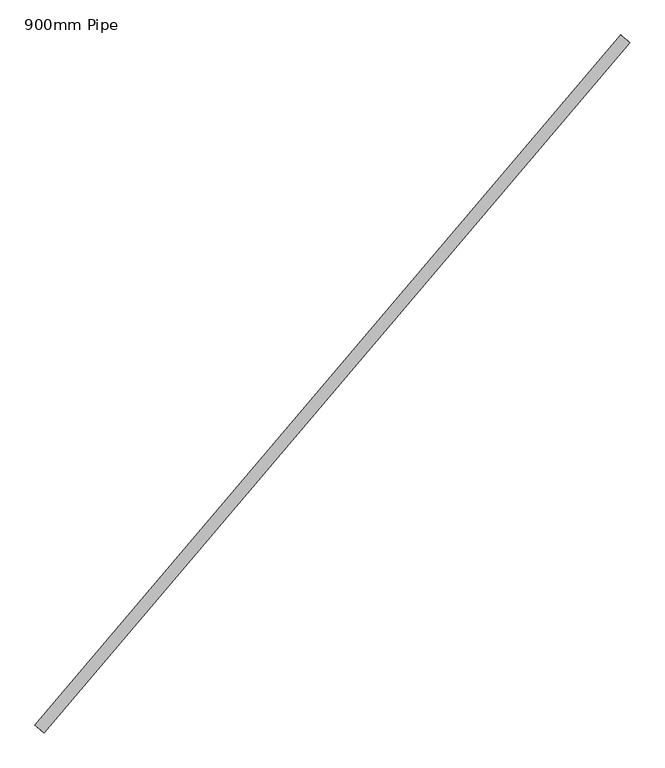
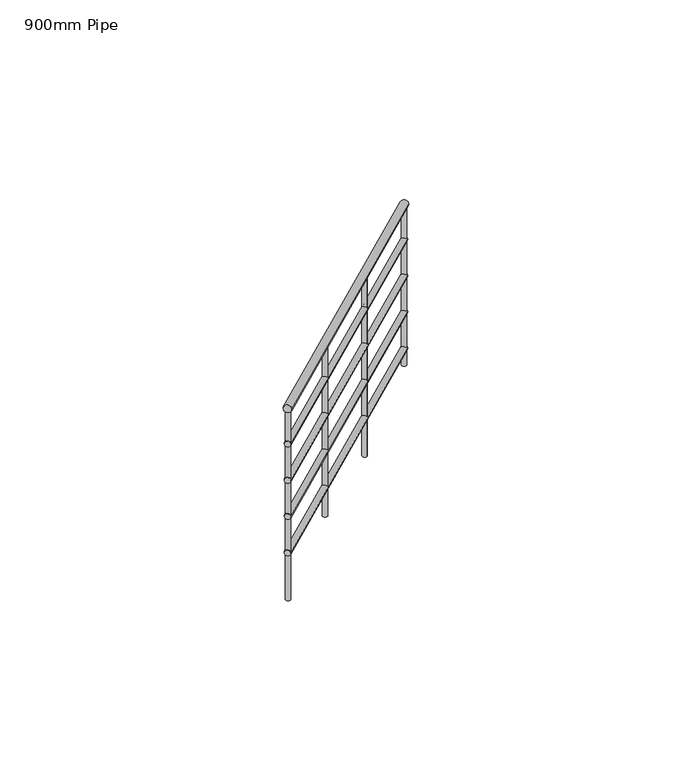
"""IFC4 building model written with IfcOpenShell, lengths in millimetres: railing geometry, 900mm Pipe."""

from ifc_helpers import new_model, si_unit, frame, origin, place, context, project, spatial, circle_curve, ellipse_curve, source, transform, mapped, element, save
from ifc_brep_helpers import plane_surface, cylinder_surface, advanced_brep


def railing_900mm_pipe_0c2fd33f(model_context):
    return source(origin(), model_context, "Body", "AdvancedBrep", [
        advanced_brep(
        [(832547.0758145, 66281.9793506, 1058.386247), (832516.5883044, 66307.8735918, 1058.386247), (830642.5195071, 64039.5819268, 1954.8568352), (830612.031997, 64065.476168, 1954.8568352)],
        [
            (0, 1, ellipse_curve(frame((832531.8320594, 66294.9264712, 1058.386247), z_axis=(0.6473560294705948, 0.7621877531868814, 0.0), x_axis=(0.0, 0.0, -1.0)), 20.9078706, 20.0)),
            (1, 0, ellipse_curve(frame((832531.8320594, 66294.9264712, 1058.386247), z_axis=(0.6473560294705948, 0.7621877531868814, 0.0), x_axis=(0.0, 0.0, -1.0)), 20.9078706, 20.0)),
            (2, 3, ellipse_curve(frame((830627.275752, 64052.5290474, 1954.8568352), z_axis=(-0.6473560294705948, -0.7621877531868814, 0.0), x_axis=(0.0, 0.0, -1.0)), 20.9078706, 20.0)),
            (3, 2, ellipse_curve(frame((830627.275752, 64052.5290474, 1954.8568352), z_axis=(-0.6473560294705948, -0.7621877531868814, 0.0), x_axis=(0.0, 0.0, -1.0)), 20.9078706, 20.0)),
            (0, 2),
            (3, 1),
        ],
        [
            plane_surface(frame((832531.8320594, 66294.9264712, 1079.2941176), z_axis=(0.6473560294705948, 0.7621877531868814, 0.0), x_axis=(0.7621877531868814, -0.6473560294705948, 0.0))),
            plane_surface(frame((830627.275752, 64052.5290474, 1975.7647059), z_axis=(-0.6473560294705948, -0.7621877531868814, 0.0), x_axis=(0.7621877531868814, -0.6473560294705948, 0.0))),
            cylinder_surface(frame((832528.05826, 66290.4832536, 1060.1625663), z_axis=(0.6192462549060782, 0.7290917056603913, -0.291477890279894), x_axis=(-0.7621877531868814, 0.6473560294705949, 0.0)), 20.0),
        ],
        [
            (0, [[1, 2]]),
            (1, [[3, 4]]),
            (2, [[-1, 5, -4, 6]]),
            (2, [[-2, -6, -3, -5]]),
        ],
    ),
        advanced_brep(
        [(832543.2648757, 66285.2161307, 863.6132147), (832520.3992431, 66304.6368116, 863.6132147), (830638.7085683, 64042.818707, 1760.0838029), (830615.8429357, 64062.2393879, 1760.0838029)],
        [
            (0, 1, ellipse_curve(frame((832531.8320594, 66294.9264712, 863.6132147), z_axis=(0.6473560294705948, 0.7621877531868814, 0.0), x_axis=(0.0, 0.0, -1.0)), 15.680903, 15.0)),
            (1, 0, ellipse_curve(frame((832531.8320594, 66294.9264712, 863.6132147), z_axis=(0.6473560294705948, 0.7621877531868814, 0.0), x_axis=(0.0, 0.0, -1.0)), 15.680903, 15.0)),
            (2, 3, ellipse_curve(frame((830627.275752, 64052.5290474, 1760.0838029), z_axis=(-0.6473560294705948, -0.7621877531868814, 0.0), x_axis=(0.0, 0.0, -1.0)), 15.680903, 15.0)),
            (3, 2, ellipse_curve(frame((830627.275752, 64052.5290474, 1760.0838029), z_axis=(-0.6473560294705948, -0.7621877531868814, 0.0), x_axis=(0.0, 0.0, -1.0)), 15.680903, 15.0)),
            (0, 2),
            (3, 1),
        ],
        [
            plane_surface(frame((832531.8320594, 66294.9264712, 879.2941176), z_axis=(0.6473560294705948, 0.7621877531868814, 0.0), x_axis=(0.7621877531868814, -0.6473560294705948, 0.0))),
            plane_surface(frame((830627.275752, 64052.5290474, 1775.7647059), z_axis=(-0.6473560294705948, -0.7621877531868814, 0.0), x_axis=(0.7621877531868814, -0.6473560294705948, 0.0))),
            cylinder_surface(frame((832529.0017099, 66291.594058, 864.9454542), z_axis=(0.6192462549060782, 0.7290917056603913, -0.291477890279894), x_axis=(-0.7621877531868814, 0.6473560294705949, 0.0)), 15.0),
        ],
        [
            (0, [[1, 2]]),
            (1, [[3, 4]]),
            (2, [[-1, 5, -4, 6]]),
            (2, [[-2, -6, -3, -5]]),
        ],
    ),
        advanced_brep(
        [(832543.2648757, 66285.2161307, 663.6132147), (832520.3992431, 66304.6368116, 663.6132147), (830638.7085683, 64042.818707, 1560.0838029), (830615.8429357, 64062.2393879, 1560.0838029)],
        [
            (0, 1, ellipse_curve(frame((832531.8320594, 66294.9264712, 663.6132147), z_axis=(0.6473560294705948, 0.7621877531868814, 0.0), x_axis=(0.0, 0.0, -1.0)), 15.680903, 15.0)),
            (1, 0, ellipse_curve(frame((832531.8320594, 66294.9264712, 663.6132147), z_axis=(0.6473560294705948, 0.7621877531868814, 0.0), x_axis=(0.0, 0.0, -1.0)), 15.680903, 15.0)),
            (2, 3, ellipse_curve(frame((830627.275752, 64052.5290474, 1560.0838029), z_axis=(-0.6473560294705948, -0.7621877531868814, 0.0), x_axis=(0.0, 0.0, -1.0)), 15.680903, 15.0)),
            (3, 2, ellipse_curve(frame((830627.275752, 64052.5290474, 1560.0838029), z_axis=(-0.6473560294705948, -0.7621877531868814, 0.0), x_axis=(0.0, 0.0, -1.0)), 15.680903, 15.0)),
            (0, 2),
            (3, 1),
        ],
        [
            plane_surface(frame((832531.8320594, 66294.9264712, 679.2941176), z_axis=(0.6473560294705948, 0.7621877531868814, 0.0), x_axis=(0.7621877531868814, -0.6473560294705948, 0.0))),
            plane_surface(frame((830627.275752, 64052.5290474, 1575.7647059), z_axis=(-0.6473560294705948, -0.7621877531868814, 0.0), x_axis=(0.7621877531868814, -0.6473560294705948, 0.0))),
            cylinder_surface(frame((832529.0017099, 66291.594058, 664.9454542), z_axis=(0.6192462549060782, 0.7290917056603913, -0.291477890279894), x_axis=(-0.7621877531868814, 0.6473560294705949, 0.0)), 15.0),
        ],
        [
            (0, [[1, 2]]),
            (1, [[3, 4]]),
            (2, [[-1, 5, -4, 6]]),
            (2, [[-2, -6, -3, -5]]),
        ],
    ),
        advanced_brep(
        [(832543.2648757, 66285.2161307, 463.6132147), (832520.3992431, 66304.6368116, 463.6132147), (830638.7085683, 64042.818707, 1360.0838029), (830615.8429357, 64062.2393879, 1360.0838029)],
        [
            (0, 1, ellipse_curve(frame((832531.8320594, 66294.9264712, 463.6132147), z_axis=(0.6473560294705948, 0.7621877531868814, 0.0), x_axis=(0.0, 0.0, -1.0)), 15.680903, 15.0)),
            (1, 0, ellipse_curve(frame((832531.8320594, 66294.9264712, 463.6132147), z_axis=(0.6473560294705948, 0.7621877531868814, 0.0), x_axis=(0.0, 0.0, -1.0)), 15.680903, 15.0)),
            (2, 3, ellipse_curve(frame((830627.275752, 64052.5290474, 1360.0838029), z_axis=(-0.6473560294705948, -0.7621877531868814, 0.0), x_axis=(0.0, 0.0, -1.0)), 15.680903, 15.0)),
            (3, 2, ellipse_curve(frame((830627.275752, 64052.5290474, 1360.0838029), z_axis=(-0.6473560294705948, -0.7621877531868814, 0.0), x_axis=(0.0, 0.0, -1.0)), 15.680903, 15.0)),
            (0, 2),
            (3, 1),
        ],
        [
            plane_surface(frame((832531.8320594, 66294.9264712, 479.2941176), z_axis=(0.6473560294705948, 0.7621877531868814, 0.0), x_axis=(0.7621877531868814, -0.6473560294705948, 0.0))),
            plane_surface(frame((830627.275752, 64052.5290474, 1375.7647059), z_axis=(-0.6473560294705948, -0.7621877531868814, 0.0), x_axis=(0.7621877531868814, -0.6473560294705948, 0.0))),
            cylinder_surface(frame((832529.0017099, 66291.594058, 464.9454542), z_axis=(0.6192462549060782, 0.7290917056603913, -0.291477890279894), x_axis=(-0.7621877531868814, 0.6473560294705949, 0.0)), 15.0),
        ],
        [
            (0, [[1, 2]]),
            (1, [[3, 4]]),
            (2, [[-1, 5, -4, 6]]),
            (2, [[-2, -6, -3, -5]]),
        ],
    ),
        advanced_brep(
        [(832543.2648757, 66285.2161307, 263.6132147), (832520.3992431, 66304.6368116, 263.6132147), (830638.7085683, 64042.818707, 1160.0838029), (830615.8429357, 64062.2393879, 1160.0838029)],
        [
            (0, 1, ellipse_curve(frame((832531.8320594, 66294.9264712, 263.6132147), z_axis=(0.6473560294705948, 0.7621877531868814, 0.0), x_axis=(0.0, 0.0, -1.0)), 15.680903, 15.0)),
            (1, 0, ellipse_curve(frame((832531.8320594, 66294.9264712, 263.6132147), z_axis=(0.6473560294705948, 0.7621877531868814, 0.0), x_axis=(0.0, 0.0, -1.0)), 15.680903, 15.0)),
            (2, 3, ellipse_curve(frame((830627.275752, 64052.5290474, 1160.0838029), z_axis=(-0.6473560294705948, -0.7621877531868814, 0.0), x_axis=(0.0, 0.0, -1.0)), 15.680903, 15.0)),
            (3, 2, ellipse_curve(frame((830627.275752, 64052.5290474, 1160.0838029), z_axis=(-0.6473560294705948, -0.7621877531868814, 0.0), x_axis=(0.0, 0.0, -1.0)), 15.680903, 15.0)),
            (0, 2),
            (3, 1),
        ],
        [
            plane_surface(frame((832531.8320594, 66294.9264712, 279.2941176), z_axis=(0.6473560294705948, 0.7621877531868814, 0.0), x_axis=(0.7621877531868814, -0.6473560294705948, 0.0))),
            plane_surface(frame((830627.275752, 64052.5290474, 1175.7647059), z_axis=(-0.6473560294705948, -0.7621877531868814, 0.0), x_axis=(0.7621877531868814, -0.6473560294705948, 0.0))),
            cylinder_surface(frame((832529.0017099, 66291.594058, 264.9454542), z_axis=(0.6192462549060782, 0.7290917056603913, -0.2914778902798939), x_axis=(-0.7621877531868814, 0.6473560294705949, 0.0)), 15.0),
        ],
        [
            (0, [[1, 2]]),
            (1, [[3, 4]]),
            (2, [[-1, 5, -4, 6]]),
            (2, [[-2, -6, -3, -5]]),
        ],
    ),
        advanced_brep(
        [(831227.5926536, 64778.6429152, 1646.8965794), (831227.5926536, 64778.6429152, 717.1764706), (831246.6473474, 64762.4590144, 717.1764706), (831246.6473474, 64762.4590144, 1646.8965794)],
        [
            (0, 1),
            (1, 2, circle_curve(frame((831237.1200005, 64770.5509648, 717.1764706), z_axis=(0.0, 0.0, 1.0), x_axis=(0.7621877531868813, -0.6473560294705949, 0.0)), 12.5)),
            (2, 3),
            (3, 0, ellipse_curve(frame((831237.1200005, 64770.5509648, 1646.8965794), z_axis=(-0.18868996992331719, -0.22216087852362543, -0.9565775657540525), x_axis=(-0.6192462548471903, -0.7290917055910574, 0.2914778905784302)), 13.0674191, 12.5)),
            (0, 3, ellipse_curve(frame((831237.1200005, 64770.5509648, 1646.8965794), z_axis=(-0.18868996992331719, -0.22216087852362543, -0.9565775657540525), x_axis=(-0.6192462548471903, -0.7290917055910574, 0.2914778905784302)), 13.0674191, 12.5)),
            (2, 1, circle_curve(frame((831237.1200005, 64770.5509648, 717.1764706), z_axis=(0.0, 0.0, 1.0), x_axis=(0.7621877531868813, -0.6473560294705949, 0.0)), 12.5)),
        ],
        [
            cylinder_surface(frame((831237.1200005, 64770.5509648, 617.1764706), z_axis=(0.0, 0.0, 1.0), x_axis=(0.7621877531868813, -0.6473560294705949, 0.0)), 12.5),
            plane_surface(frame((831239.9907936, 64735.3123702, 1654.5143069), z_axis=(0.18868996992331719, 0.22216087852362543, 0.9565775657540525), x_axis=(-0.7621877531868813, 0.6473560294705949, 0.0))),
            plane_surface(frame((831272.3585951, 64773.4217579, 717.1764706), z_axis=(0.0, 0.0, -1.0), x_axis=(-0.7621877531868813, 0.6473560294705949, 0.0))),
        ],
        [
            (0, [[1, 2, 3, 4]]),
            (0, [[-1, 5, -3, 6]]),
            (1, [[-4, -5]]),
            (2, [[-2, -6]]),
        ],
    ),
        advanced_brep(
        [(831874.948683, 65540.8306684, 1342.1874779), (831874.948683, 65540.8306684, 358.5882353), (831894.0033769, 65524.6467676, 358.5882353), (831894.0033769, 65524.6467676, 1342.1874779)],
        [
            (0, 1),
            (1, 2, circle_curve(frame((831884.47603, 65532.738718, 358.5882353), z_axis=(0.0, 0.0, 1.0), x_axis=(0.7621877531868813, -0.6473560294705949, 0.0)), 12.5)),
            (2, 3),
            (3, 0, ellipse_curve(frame((831884.47603, 65532.738718, 1342.1874779), z_axis=(-0.1886899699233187, -0.22216087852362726, -0.9565775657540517), x_axis=(-0.6192462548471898, -0.7290917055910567, 0.29147789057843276)), 13.0674191, 12.5)),
            (0, 3, ellipse_curve(frame((831884.47603, 65532.738718, 1342.1874779), z_axis=(-0.1886899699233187, -0.22216087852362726, -0.9565775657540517), x_axis=(-0.6192462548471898, -0.7290917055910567, 0.29147789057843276)), 13.0674191, 12.5)),
            (2, 1, circle_curve(frame((831884.47603, 65532.738718, 358.5882353), z_axis=(0.0, 0.0, 1.0), x_axis=(0.7621877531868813, -0.6473560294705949, 0.0)), 12.5)),
        ],
        [
            cylinder_surface(frame((831884.47603, 65532.738718, 258.5882353), z_axis=(0.0, 0.0, 1.0), x_axis=(0.7621877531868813, -0.6473560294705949, 0.0)), 12.5),
            plane_surface(frame((831887.346823, 65497.5001234, 1349.8052054), z_axis=(0.1886899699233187, 0.22216087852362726, 0.9565775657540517), x_axis=(-0.7621877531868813, 0.6473560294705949, 0.0))),
            plane_surface(frame((831919.7146245, 65535.6095111, 358.5882353), z_axis=(0.0, 0.0, -1.0), x_axis=(-0.7621877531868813, 0.6473560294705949, 0.0))),
        ],
        [
            (0, [[1, 2, 3, 4]]),
            (0, [[-1, 5, -3, 6]]),
            (1, [[-4, -5]]),
            (2, [[-2, -6]]),
        ],
    ),
        advanced_brep(
        [(830625.8403555, 64070.1483447, 1930.1401008), (830625.8403555, 64070.1483447, 896.4705882), (830644.8950493, 64053.964444, 896.4705882), (830644.8950493, 64053.964444, 1930.1401008)],
        [
            (0, 1),
            (1, 2, circle_curve(frame((830635.3677024, 64062.0563943, 896.4705882), z_axis=(0.0, 0.0, 1.0), x_axis=(0.7621877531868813, -0.6473560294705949, 0.0)), 12.5)),
            (2, 3),
            (3, 0, ellipse_curve(frame((830635.3677024, 64062.0563943, 1930.1401008), z_axis=(-0.18868996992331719, -0.22216087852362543, -0.9565775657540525), x_axis=(-0.6192462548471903, -0.7290917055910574, 0.2914778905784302)), 13.0674191, 12.5)),
            (0, 3, ellipse_curve(frame((830635.3677024, 64062.0563943, 1930.1401008), z_axis=(-0.18868996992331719, -0.22216087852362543, -0.9565775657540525), x_axis=(-0.6192462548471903, -0.7290917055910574, 0.2914778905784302)), 13.0674191, 12.5)),
            (2, 1, circle_curve(frame((830635.3677024, 64062.0563943, 896.4705882), z_axis=(0.0, 0.0, 1.0), x_axis=(0.7621877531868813, -0.6473560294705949, 0.0)), 12.5)),
        ],
        [
            cylinder_surface(frame((830635.3677024, 64062.0563943, 796.4705882), z_axis=(0.0, 0.0, 1.0), x_axis=(0.7621877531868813, -0.6473560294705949, 0.0)), 12.5),
            plane_surface(frame((830638.2384955, 64026.8177998, 1937.7578284), z_axis=(0.18868996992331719, 0.22216087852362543, 0.9565775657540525), x_axis=(-0.7621877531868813, 0.6473560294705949, 0.0))),
            plane_surface(frame((830670.606297, 64064.9271874, 896.4705882), z_axis=(0.0, 0.0, -1.0), x_axis=(-0.7621877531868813, 0.6473560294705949, 0.0))),
        ],
        [
            (0, [[1, 2, 3, 4]]),
            (0, [[-1, 5, -3, 6]]),
            (1, [[-4, -5]]),
            (2, [[-2, -6]]),
        ],
    ),
        advanced_brep(
        [(832514.2127621, 66293.4910746, 1041.2872401), (832514.2127621, 66293.4910746, 179.2941176), (832533.267456, 66277.3071739, 179.2941176), (832533.267456, 66277.3071739, 1041.2872401)],
        [
            (0, 1),
            (1, 2, circle_curve(frame((832523.7401091, 66285.3991243, 179.2941176), z_axis=(0.0, 0.0, 1.0), x_axis=(0.7621877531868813, -0.6473560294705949, 0.0)), 12.5)),
            (2, 3),
            (3, 0, ellipse_curve(frame((832523.7401091, 66285.3991243, 1041.2872401), z_axis=(-0.1886899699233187, -0.22216087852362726, -0.9565775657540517), x_axis=(-0.6192462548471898, -0.7290917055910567, 0.29147789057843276)), 13.0674191, 12.5)),
            (0, 3, ellipse_curve(frame((832523.7401091, 66285.3991243, 1041.2872401), z_axis=(-0.1886899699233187, -0.22216087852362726, -0.9565775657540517), x_axis=(-0.6192462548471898, -0.7290917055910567, 0.29147789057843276)), 13.0674191, 12.5)),
            (2, 1, circle_curve(frame((832523.7401091, 66285.3991243, 179.2941176), z_axis=(0.0, 0.0, 1.0), x_axis=(0.7621877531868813, -0.6473560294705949, 0.0)), 12.5)),
        ],
        [
            cylinder_surface(frame((832523.7401091, 66285.3991243, 79.2941176), z_axis=(0.0, 0.0, 1.0), x_axis=(0.7621877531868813, -0.6473560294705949, 0.0)), 12.5),
            plane_surface(frame((832526.6109022, 66250.1605297, 1048.9049677), z_axis=(0.1886899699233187, 0.22216087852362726, 0.9565775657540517), x_axis=(-0.7621877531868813, 0.6473560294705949, 0.0))),
            plane_surface(frame((832558.9787036, 66288.2699174, 179.2941176), z_axis=(0.0, 0.0, -1.0), x_axis=(-0.7621877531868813, 0.6473560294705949, 0.0))),
        ],
        [
            (0, [[1, 2, 3, 4]]),
            (0, [[-1, 5, -3, 6]]),
            (1, [[-4, -5]]),
            (2, [[-2, -6]]),
        ],
    ),
    ])


if __name__ == "__main__":
    model = new_model("IFC4")
    model_context = context("Model", 3, world=origin())
    ifc_project = project(units=[si_unit("LENGTHUNIT", "METRE", prefix="MILLI")], contexts=[model_context])
    site = spatial("IfcSite", under=ifc_project)
    building = spatial("IfcBuilding", under=site)
    placement = place(None, origin())
    railing_900mm_pipe_shape = railing_900mm_pipe_0c2fd33f(model_context)
    element("IfcRailing", 1, ObjectType="900mm Pipe", at=placement, inside=building, context=model_context, shape_type="MappedRepresentation", body=[
        mapped(railing_900mm_pipe_shape, transform((0.0, 0.0, 0.0), x_axis=(1.0, 0.0, 0.0), y_axis=(0.0, 1.0, 0.0), z_axis=(0.0, 0.0, 1.0))),
    ])
    save(model, "model.ifc")
